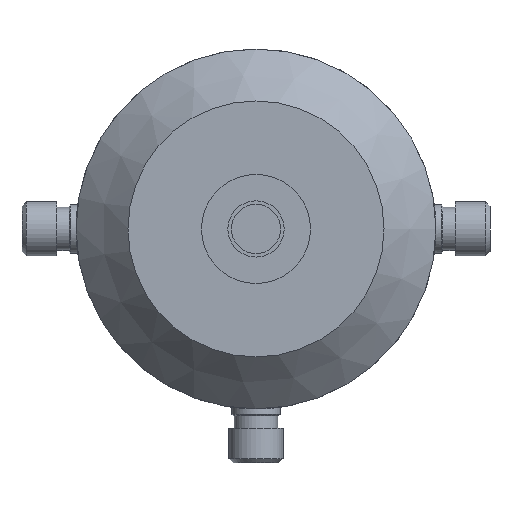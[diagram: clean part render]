
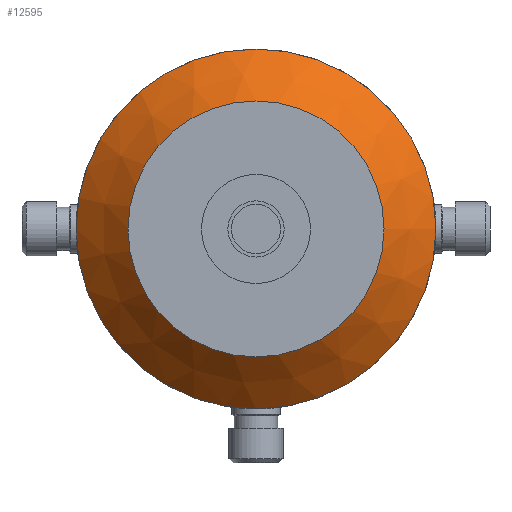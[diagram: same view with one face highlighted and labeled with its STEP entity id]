
A CAD part, front view. The second image highlights one B-rep face of the part: STEP entity #12595.
In plain terms, the highlighted conical face has half-angle 45 degrees and reference radius 37.262 mm.
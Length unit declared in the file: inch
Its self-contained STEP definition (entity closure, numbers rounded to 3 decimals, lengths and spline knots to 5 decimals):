
#234 = DIRECTION ( 'NONE',  ( 1., 0., 0. ) ) ;
#613 = EDGE_CURVE ( 'NONE', #1676, #1676, #3480, .T. ) ;
#1346 = AXIS2_PLACEMENT_3D ( 'NONE', #7201, #11171, #2236 ) ;
#1676 = VERTEX_POINT ( 'NONE', #5647 ) ;
#1969 = EDGE_CURVE ( 'NONE', #7374, #7374, #1979, .T. ) ;
#1979 = CIRCLE ( 'NONE', #10935, 1.467 ) ;
#2236 = DIRECTION ( 'NONE',  ( 1., 0., 0. ) ) ;
#2568 = DIRECTION ( 'NONE',  ( 1., 0., 0. ) ) ;
#3217 = FACE_BOUND ( 'NONE', #11126, .T. ) ;
#3480 = CIRCLE ( 'NONE', #10780, 2.062 ) ;
#4270 = ORIENTED_EDGE ( 'NONE', *, *, #613, .F. ) ;
#5205 = CARTESIAN_POINT ( 'NONE',  ( 0., -1.095, 0. ) ) ;
#5397 = EDGE_LOOP ( 'NONE', ( #4270 ) ) ;
#5647 = CARTESIAN_POINT ( 'NONE',  ( 2.062, -0.5, 0. ) ) ;
#6965 = CONICAL_SURFACE ( 'NONE', #1346, 1.467, 0.785 ) ;
#7201 = CARTESIAN_POINT ( 'NONE',  ( 0., -1.095, 0. ) ) ;
#7374 = VERTEX_POINT ( 'NONE', #11352 ) ;
#7518 = CARTESIAN_POINT ( 'NONE',  ( 0., -0.5, 0. ) ) ;
#9026 = ORIENTED_EDGE ( 'NONE', *, *, #1969, .T. ) ;
#9177 = DIRECTION ( 'NONE',  ( 0., 1., 0. ) ) ;
#10780 = AXIS2_PLACEMENT_3D ( 'NONE', #7518, #11495, #2568 ) ;
#10935 = AXIS2_PLACEMENT_3D ( 'NONE', #5205, #9177, #234 ) ;
#11126 = EDGE_LOOP ( 'NONE', ( #9026 ) ) ;
#11171 = DIRECTION ( 'NONE',  ( 0., 1., 0. ) ) ;
#11352 = CARTESIAN_POINT ( 'NONE',  ( 1.467, -1.095, 0. ) ) ;
#11495 = DIRECTION ( 'NONE',  ( 0., 1., 0. ) ) ;
#12160 = FACE_OUTER_BOUND ( 'NONE', #5397, .T. ) ;
#12595 = ADVANCED_FACE ( 'NONE', ( #12160, #3217 ), #6965, .T. ) ;
